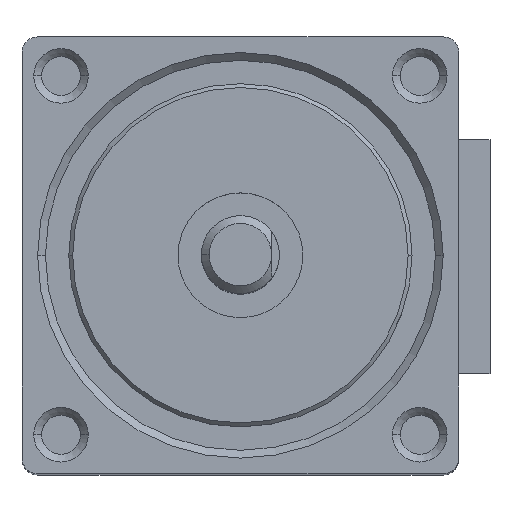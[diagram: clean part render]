
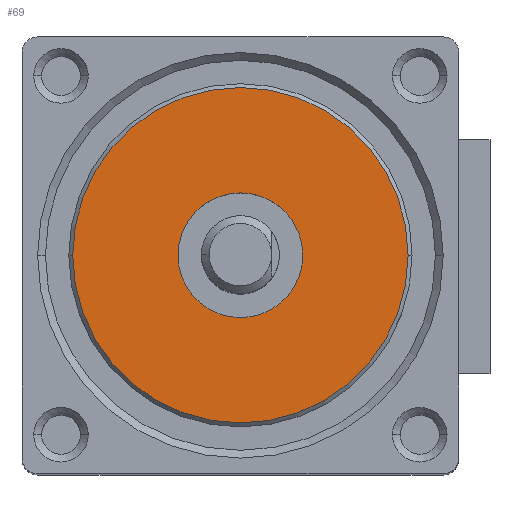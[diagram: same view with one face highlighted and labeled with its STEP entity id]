
A CAD part, top view. The second image highlights one B-rep face of the part: STEP entity #69.
In plain terms, the highlighted planar face has unit normal (0, 0, 1).
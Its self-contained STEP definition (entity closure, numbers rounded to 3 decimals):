
#69 = ADVANCED_FACE ( 'NONE', ( #5847, #6012 ), #5638, .T. ) ;
#92 = DIRECTION ( 'NONE',  ( -1., 0., 0. ) ) ;
#259 = DIRECTION ( 'NONE',  ( 1., 0., 0. ) ) ;
#300 = DIRECTION ( 'NONE',  ( 0., 0., -1. ) ) ;
#386 = CARTESIAN_POINT ( 'NONE',  ( 0., 0., 9. ) ) ;
#578 = AXIS2_PLACEMENT_3D ( 'NONE', #6426, #3343, #259 ) ;
#820 = ORIENTED_EDGE ( 'NONE', *, *, #2353, .T. ) ;
#886 = DIRECTION ( 'NONE',  ( 1., 0., 0. ) ) ;
#950 = DIRECTION ( 'NONE',  ( 1., 0., 0. ) ) ;
#977 = ORIENTED_EDGE ( 'NONE', *, *, #1143, .F. ) ;
#1143 = EDGE_CURVE ( 'NONE', #1538, #6325, #4110, .T. ) ;
#1187 = VERTEX_POINT ( 'NONE', #1277 ) ;
#1277 = CARTESIAN_POINT ( 'NONE',  ( 4., 0., 9. ) ) ;
#1321 = VERTEX_POINT ( 'NONE', #1879 ) ;
#1538 = VERTEX_POINT ( 'NONE', #4369 ) ;
#1859 = EDGE_LOOP ( 'NONE', ( #2589, #977 ) ) ;
#1879 = CARTESIAN_POINT ( 'NONE',  ( -4., 0., 9. ) ) ;
#2129 = AXIS2_PLACEMENT_3D ( 'NONE', #6253, #3175, #92 ) ;
#2217 = AXIS2_PLACEMENT_3D ( 'NONE', #386, #4001, #886 ) ;
#2275 = EDGE_LOOP ( 'NONE', ( #820, #2782 ) ) ;
#2353 = EDGE_CURVE ( 'NONE', #1187, #1321, #5916, .T. ) ;
#2589 = ORIENTED_EDGE ( 'NONE', *, *, #5763, .F. ) ;
#2782 = ORIENTED_EDGE ( 'NONE', *, *, #4172, .T. ) ;
#2790 = CARTESIAN_POINT ( 'NONE',  ( -10.75, 0., 9. ) ) ;
#3175 = DIRECTION ( 'NONE',  ( 0., 0., -1. ) ) ;
#3343 = DIRECTION ( 'NONE',  ( 0., 0., -1. ) ) ;
#3388 = CARTESIAN_POINT ( 'NONE',  ( 0., 0., 9. ) ) ;
#3414 = AXIS2_PLACEMENT_3D ( 'NONE', #4613, #4588, #950 ) ;
#3789 = CIRCLE ( 'NONE', #578, 4. ) ;
#3915 = DIRECTION ( 'NONE',  ( -1., 0., 0. ) ) ;
#4001 = DIRECTION ( 'NONE',  ( 0., 0., -1. ) ) ;
#4110 = CIRCLE ( 'NONE', #4991, 10.75 ) ;
#4172 = EDGE_CURVE ( 'NONE', #1321, #1187, #3789, .T. ) ;
#4369 = CARTESIAN_POINT ( 'NONE',  ( 10.75, 0., 9. ) ) ;
#4588 = DIRECTION ( 'NONE',  ( 0., 0., 1. ) ) ;
#4613 = CARTESIAN_POINT ( 'NONE',  ( 0., 0., 9. ) ) ;
#4991 = AXIS2_PLACEMENT_3D ( 'NONE', #3388, #300, #3915 ) ;
#5318 = CIRCLE ( 'NONE', #2129, 10.75 ) ;
#5638 = PLANE ( 'NONE',  #3414 ) ;
#5763 = EDGE_CURVE ( 'NONE', #6325, #1538, #5318, .T. ) ;
#5847 = FACE_OUTER_BOUND ( 'NONE', #1859, .T. ) ;
#5916 = CIRCLE ( 'NONE', #2217, 4. ) ;
#6012 = FACE_BOUND ( 'NONE', #2275, .T. ) ;
#6253 = CARTESIAN_POINT ( 'NONE',  ( 0., 0., 9. ) ) ;
#6325 = VERTEX_POINT ( 'NONE', #2790 ) ;
#6426 = CARTESIAN_POINT ( 'NONE',  ( 0., 0., 9. ) ) ;
